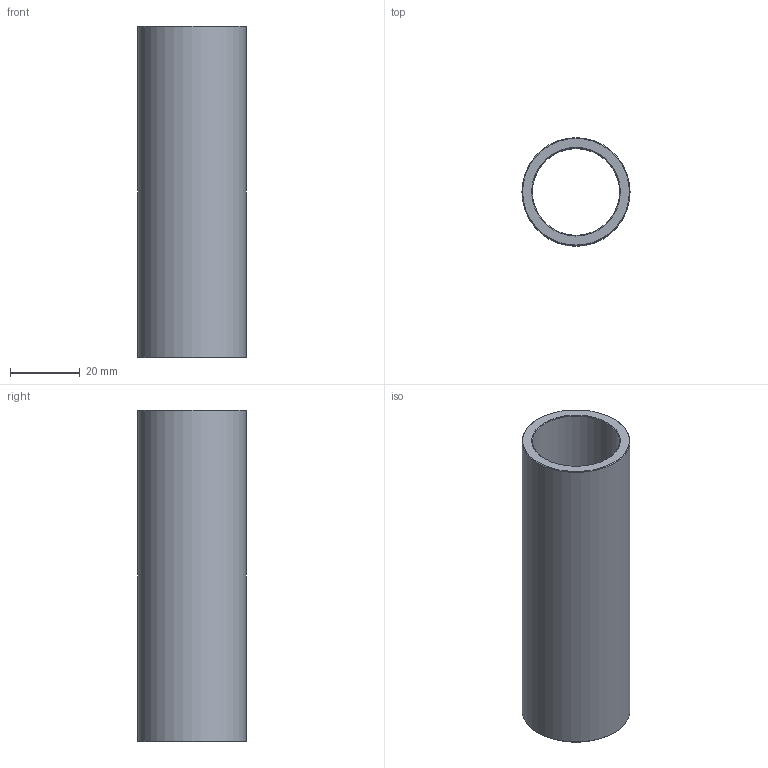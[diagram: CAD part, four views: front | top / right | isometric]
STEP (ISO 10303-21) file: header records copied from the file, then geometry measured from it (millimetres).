
FILE_DESCRIPTION(('STEP AP203'),'1');
FILE_NAME('C:/Users/Rodrigo/Desktop/GA4.025.095-1.step','2016-11-07T16:26:50',(' '),(' '),'Spatial InterOp 3D',' ',' ');
FILE_SCHEMA(('CONFIG_CONTROL_DESIGN'));
Length unit declared in the file: millimetre
Products named in the file (1): 1
Bounding box: 31 x 31 x 95 mm (x, y, z)
Volume: 25062.9 mm3; surface area: 17199.8 mm2
Topology: 1 solids, 1 shells, 8 faces, 14 edges, 8 vertices
Faces by surface type: cone 4, cylinder 2, plane 2
Full cylindrical faces by diameter (mm): 25 x1, 31 x1
Entity records: 212 total; most frequent: DIRECTION 34, CARTESIAN_POINT 25, AXIS2_PLACEMENT_3D 17, EDGE_LOOP 16, ORIENTED_EDGE 16, FACE_OUTER_BOUND 10, ADVANCED_FACE 8, EDGE_CURVE 8
